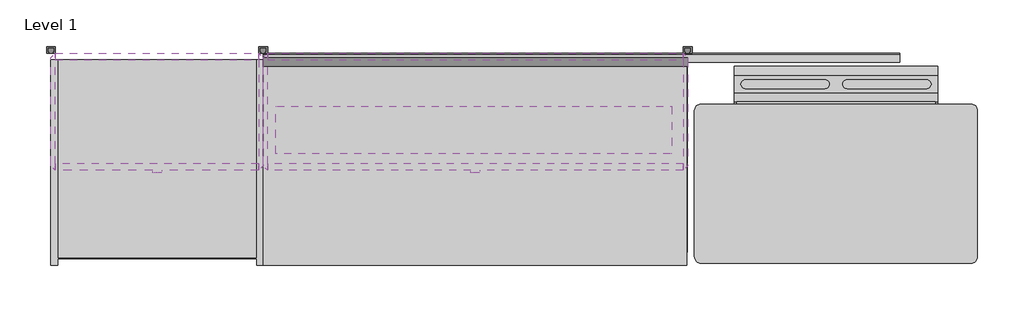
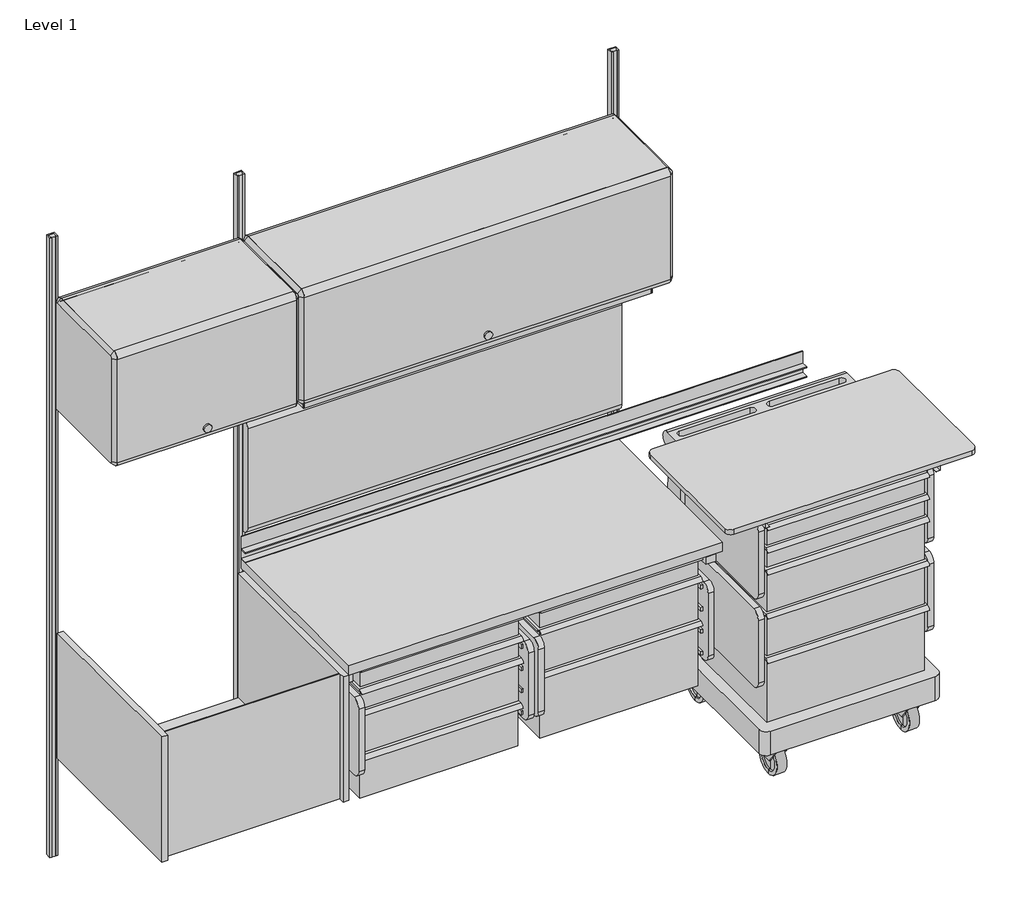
# One storey, incomplete: 30 furniture elements, 1 light fixture.
"""IFC4 building model written with IfcOpenShell, lengths in millimetres."""

from ifc_helpers import new_model, si_unit, origin, place, context, project, spatial, transform, mapped, element, save
from components import furniture_d92eedc3, furniture_cf1839e9, furniture_645566ab, furniture_ddd7d6d3, furniture_545f82d3, furniture_de886b3f, furniture_b99f520c, furniture_2c2a0f93, furniture_fc90cfd9, furniture_e09989cd, furniture_82778d6f, furniture_ebb16344, furniture_fa600c10, furniture_8d228605, furniture_ea425779, a_3_f482e030, a_3_189406c7, a_3_20021f84, a_3_c1a7feba, b_6_92a8d064, b_6_520a1b3d, b_6_334becb9, b_6_3d2ec204, b_6_ad6fc926, c_9_607037d1, c_9_16105775, light_fixture_48w_for_action_office_09e55f13

model = new_model("IFC4")

# Units and contexts
model_context = context("Model", 3, world=origin())
ifc_project = project(units=[si_unit("LENGTHUNIT", "METRE", prefix="MILLI")], contexts=[model_context])

# Site, building, storey
site = spatial("IfcSite", under=ifc_project)
building = spatial("IfcBuilding", under=site)
storey = spatial("IfcBuildingStorey", under=building, Name="Level 1", Elevation=0.0)

# Furniture
placement = place(None, origin())
furniture_shape = furniture_d92eedc3(model_context)
element("IfcFurniture", 1, ObjectType="HermanMiller_CoStruc_C2910_WorkSurfaceBacksplash : 3\"H x 72\"W", at=placement, inside=storey, context=model_context, shape_type="MappedRepresentation", body=[
    mapped(furniture_shape, transform((1524.0, -19.05, 31.75), x_axis=(1.0, 0.0, 0.0), y_axis=(0.0, 1.0, 0.0), z_axis=(0.0, 0.0, 1.0))),
])
furniture_2_shape = furniture_cf1839e9(model_context)
element("IfcFurniture", 2, ObjectType="HermanMiller_CoStruc_CO205_CFrame : 10\"H x 17\"D x 22\"W", at=placement, inside=storey, context=model_context, shape_type="MappedRepresentation", body=[
    mapped(furniture_2_shape, transform((2160.0311151, -227.1463997, 0.0), x_axis=(1.0, 0.0, 0.0), y_axis=(0.0, 1.0, 0.0), z_axis=(0.0, 0.0, 1.0))),
])
furniture_3_shape = furniture_645566ab(model_context)
element("IfcFurniture", 3, ObjectType="HermanMiller_CoStruc_CO555_CounterTop : 18\"D x 32\"W", at=placement, inside=storey, context=model_context, shape_type="MappedRepresentation", body=[
    mapped(furniture_3_shape, transform((2254.96882, -393.65428, 0.0), x_axis=(1.0, 0.0, 0.0), y_axis=(0.0, 1.0, 0.0), z_axis=(0.0, 0.0, 1.0))),
])
furniture_4_shape = furniture_ddd7d6d3(model_context)
element("IfcFurniture", 4, ObjectType="HermanMiller_CoStruc_CO205_CFrame : 10\"H x 17\"D x 22\"W", at=placement, inside=storey, context=model_context, shape_type="MappedRepresentation", body=[
    mapped(furniture_4_shape, transform((2160.0311151, -227.1463997, 0.0), x_axis=(1.0, 0.0, 0.0), y_axis=(0.0, 1.0, 0.0), z_axis=(0.0, 0.0, 1.0))),
])
furniture_5_shape = furniture_545f82d3(model_context)
element("IfcFurniture", 5, ObjectType="HermanMiller_CoStruc_CO212_LCart : 36\"H x 23\"W Std", at=placement, inside=storey, context=model_context, shape_type="MappedRepresentation", body=[
    mapped(furniture_5_shape, transform((2254.96882, -339.67928, 0.0), x_axis=(1.0, 0.0, 0.0), y_axis=(0.0, 1.0, 0.0), z_axis=(0.0, 0.0, 1.0))),
])
furniture_6_shape = furniture_de886b3f(model_context)
element("IfcFurniture", 6, ObjectType="HermanMiller_CoStruc_C2141_Heavy-DutyWorkSurface : 24\"D x 48\"W Lam", at=placement, inside=storey, context=model_context, shape_type="MappedRepresentation", body=[
    mapped(furniture_6_shape, transform((912.83536, -196.85, 0.0), x_axis=(1.0, 0.0, 0.0), y_axis=(0.0, 1.0, 0.0), z_axis=(0.0, 0.0, 1.0))),
])
furniture_7_shape = furniture_b99f520c(model_context)
element("IfcFurniture", 7, ObjectType="HermanMiller_CoStruc_C2140W_WorkSurfaceSupport_ComponentAdaptor : 14\"H x 24\"D x 48\"W", at=placement, inside=storey, context=model_context, shape_type="MappedRepresentation", body=[
    mapped(furniture_7_shape, transform((1219.2, -196.85, 0.0), x_axis=(1.0, 0.0, 0.0), y_axis=(0.0, 1.0, 0.0), z_axis=(0.0, 0.0, 1.0))),
])
furniture_8_shape = furniture_2c2a0f93(model_context)
element("IfcFurniture", 8, ObjectType="HermanMiller_CoStruc_CO205_CFrame : 10\"H x 17\"D x 22\"W", at=placement, inside=storey, context=model_context, shape_type="MappedRepresentation", body=[
    mapped(furniture_8_shape, transform((832.1622951, -271.6421197, 0.0), x_axis=(1.0, 0.0, 0.0), y_axis=(0.0, 1.0, 0.0), z_axis=(0.0, 0.0, 1.0))),
])
element("IfcFurniture", 9, ObjectType="HermanMiller_CoStruc_CO205_CFrame : 10\"H x 17\"D x 22\"W", at=placement, inside=storey, context=model_context, shape_type="MappedRepresentation", body=[
    mapped(furniture_8_shape, transform((1418.0437751, -271.6421197, 0.0), x_axis=(1.0, 0.0, 0.0), y_axis=(0.0, 1.0, 0.0), z_axis=(0.0, 0.0, 1.0))),
])
furniture_9_shape = furniture_fc90cfd9(model_context)
element("IfcFurniture", 10, ObjectType="HermanMiller_CoStruc_C2512_SinkModule : 18\"H x 24\"D x 24\"W", at=placement, inside=storey, context=model_context, shape_type="MappedRepresentation", body=[
    mapped(furniture_9_shape, transform((304.8, -206.375, 0.0), x_axis=(1.0, 0.0, 0.0), y_axis=(0.0, 1.0, 0.0), z_axis=(0.0, 0.0, 1.0))),
])
furniture_10_shape = furniture_e09989cd(model_context)
element("IfcFurniture", 11, ObjectType="HermanMiller_ActionOffice_A3410_B-StyleTackboard : 16\"H x 48\"W", at=placement, inside=storey, context=model_context, shape_type="MappedRepresentation", body=[
    mapped(furniture_10_shape, transform((1219.2, -44.45, 25.4), x_axis=(1.0, 0.0, 0.0), y_axis=(0.0, 1.0, 0.0), z_axis=(0.0, 0.0, 1.0))),
])
furniture_11_shape = furniture_82778d6f(model_context)
element("IfcFurniture", 12, ObjectType="HermanMiller_ActionOffice_B-StyleFlipperDoor : Paint 15-1/2H x 13D x 24W", at=placement, inside=storey, context=model_context, shape_type="MappedRepresentation", body=[
    mapped(furniture_11_shape, transform((304.8, -200.025, 457.2), x_axis=(1.0, 0.0, 0.0), y_axis=(0.0, 1.0, 0.0), z_axis=(0.0, 0.0, 1.0))),
])
furniture_12_shape = furniture_ebb16344(model_context)
element("IfcFurniture", 13, ObjectType="HermanMiller_ActionOffice_B-StyleFlipperDoor : Paint 15-1/2H x 13D x 48W", at=placement, inside=storey, context=model_context, shape_type="MappedRepresentation", body=[
    mapped(furniture_12_shape, transform((1219.2, -200.025, 457.2), x_axis=(1.0, 0.0, 0.0), y_axis=(0.0, 1.0, 0.0), z_axis=(0.0, 0.0, 1.0))),
])
furniture_13_shape = furniture_fa600c10(model_context)
element("IfcFurniture", 14, ObjectType="HermanMiller_CoStruc_B-StyleShelf : 15-1/2H x 13D x 24W", at=placement, inside=storey, context=model_context, shape_type="MappedRepresentation", body=[
    mapped(furniture_13_shape, transform((428.7420045, -200.025, 457.2), x_axis=(1.0, 0.0, 0.0), y_axis=(0.0, 1.0, 0.0), z_axis=(0.0, 0.0, 1.0))),
])
furniture_14_shape = furniture_8d228605(model_context)
element("IfcFurniture", 15, ObjectType="HermanMiller_CoStruc_B-StyleShelf : 15-1/2H x 13D x 48W", at=placement, inside=storey, context=model_context, shape_type="MappedRepresentation", body=[
    mapped(furniture_14_shape, transform((1343.1420045, -200.025, 457.2), x_axis=(1.0, 0.0, 0.0), y_axis=(0.0, 1.0, 0.0), z_axis=(0.0, 0.0, 1.0))),
])
furniture_15_shape = furniture_ea425779(model_context)
element("IfcFurniture", 16, ObjectType="HermanMiller_ActionOffice_AO213_WallStrip : 84\"H", at=placement, inside=storey, context=model_context, shape_type="MappedRepresentation", body=[
    mapped(furniture_15_shape, transform((609.6, 0.0, 0.0), x_axis=(1.0, 0.0, 0.0), y_axis=(0.0, 1.0, 0.0), z_axis=(0.0, 0.0, 1.0))),
])
element("IfcFurniture", 17, ObjectType="HermanMiller_ActionOffice_AO213_WallStrip : 84\"H", at=placement, inside=storey, context=model_context, shape_type="MappedRepresentation", body=[
    mapped(furniture_15_shape, transform((1828.8, 0.0, 0.0), x_axis=(1.0, 0.0, 0.0), y_axis=(0.0, 1.0, 0.0), z_axis=(0.0, 0.0, 1.0))),
])
element("IfcFurniture", 18, ObjectType="HermanMiller_ActionOffice_AO213_WallStrip : 84\"H", at=placement, inside=storey, context=model_context, shape_type="MappedRepresentation", body=[
    mapped(furniture_15_shape, transform((0.0, 0.0, 0.0), x_axis=(1.0, 0.0, 0.0), y_axis=(0.0, 1.0, 0.0), z_axis=(0.0, 0.0, 1.0))),
])
a_3_shape = a_3_f482e030(model_context)
element("IfcFurniture", 19, ObjectType="HermanMiller_CoStruc_CO207_Drawer : A - 3", at=placement, inside=storey, context=model_context, shape_type="MappedRepresentation", body=[
    mapped(a_3_shape, transform((2254.9014717, -404.8379, 0.0), x_axis=(1.0, 0.0, 0.0), y_axis=(0.0, 1.0, 0.0), z_axis=(0.0, 0.0, 1.0))),
])
a_3_2_shape = a_3_189406c7(model_context)
element("IfcFurniture", 20, ObjectType="HermanMiller_CoStruc_CO207_Drawer : A - 3", at=placement, inside=storey, context=model_context, shape_type="MappedRepresentation", body=[
    mapped(a_3_2_shape, transform((2254.9014717, -404.8379, 0.0), x_axis=(1.0, 0.0, 0.0), y_axis=(0.0, 1.0, 0.0), z_axis=(0.0, 0.0, 1.0))),
])
a_3_3_shape = a_3_20021f84(model_context)
element("IfcFurniture", 21, ObjectType="HermanMiller_CoStruc_CO207_Drawer : A - 3", at=placement, inside=storey, context=model_context, shape_type="MappedRepresentation", body=[
    mapped(a_3_3_shape, transform((923.4893517, -419.20922, 0.0), x_axis=(1.0, 0.0, 0.0), y_axis=(0.0, 1.0, 0.0), z_axis=(0.0, 0.0, 1.0))),
])
a_3_4_shape = a_3_c1a7feba(model_context)
element("IfcFurniture", 22, ObjectType="HermanMiller_CoStruc_CO207_Drawer : A - 3", at=placement, inside=storey, context=model_context, shape_type="MappedRepresentation", body=[
    mapped(a_3_4_shape, transform((1507.7833317, -419.20922, 0.0), x_axis=(1.0, 0.0, 0.0), y_axis=(0.0, 1.0, 0.0), z_axis=(0.0, 0.0, 1.0))),
])
element("IfcFurniture", 23, ObjectType="HermanMiller_CoStruc_CO207_Drawer : A - 3", at=placement, inside=storey, context=model_context, shape_type="MappedRepresentation", body=[
    mapped(a_3_4_shape, transform((923.4893517, -419.20922, 0.0), x_axis=(1.0, 0.0, 0.0), y_axis=(0.0, 1.0, 0.0), z_axis=(0.0, 0.0, 1.0))),
])
b_6_shape = b_6_92a8d064(model_context)
element("IfcFurniture", 24, ObjectType="HermanMiller_CoStruc_CO207_Drawer : B - 6", at=placement, inside=storey, context=model_context, shape_type="MappedRepresentation", body=[
    mapped(b_6_shape, transform((2254.9014717, -404.8379, 0.0), x_axis=(1.0, 0.0, 0.0), y_axis=(0.0, 1.0, 0.0), z_axis=(0.0, 0.0, 1.0))),
])
b_6_2_shape = b_6_520a1b3d(model_context)
element("IfcFurniture", 25, ObjectType="HermanMiller_CoStruc_CO207_Drawer : B - 6", at=placement, inside=storey, context=model_context, shape_type="MappedRepresentation", body=[
    mapped(b_6_2_shape, transform((2254.9014717, -404.8379, 0.0), x_axis=(1.0, 0.0, 0.0), y_axis=(0.0, 1.0, 0.0), z_axis=(0.0, 0.0, 1.0))),
])
b_6_3_shape = b_6_334becb9(model_context)
element("IfcFurniture", 26, ObjectType="HermanMiller_CoStruc_CO207_Drawer : B - 6", at=placement, inside=storey, context=model_context, shape_type="MappedRepresentation", body=[
    mapped(b_6_3_shape, transform((1507.7833317, -419.20922, 0.0), x_axis=(1.0, 0.0, 0.0), y_axis=(0.0, 1.0, 0.0), z_axis=(0.0, 0.0, 1.0))),
])
b_6_4_shape = b_6_3d2ec204(model_context)
element("IfcFurniture", 27, ObjectType="HermanMiller_CoStruc_CO207_Drawer : B - 6", at=placement, inside=storey, context=model_context, shape_type="MappedRepresentation", body=[
    mapped(b_6_4_shape, transform((923.4893517, -419.20922, 0.0), x_axis=(1.0, 0.0, 0.0), y_axis=(0.0, 1.0, 0.0), z_axis=(0.0, 0.0, 1.0))),
])
b_6_5_shape = b_6_ad6fc926(model_context)
element("IfcFurniture", 28, ObjectType="HermanMiller_CoStruc_CO207_Drawer : B - 6", at=placement, inside=storey, context=model_context, shape_type="MappedRepresentation", body=[
    mapped(b_6_5_shape, transform((921.9018517, -419.20922, 0.0), x_axis=(1.0, 0.0, 0.0), y_axis=(0.0, 1.0, 0.0), z_axis=(0.0, 0.0, 1.0))),
])
c_9_shape = c_9_607037d1(model_context)
element("IfcFurniture", 29, ObjectType="HermanMiller_CoStruc_CO207_Drawer : C - 9", at=placement, inside=storey, context=model_context, shape_type="MappedRepresentation", body=[
    mapped(c_9_shape, transform((2254.9014717, -404.8379, 0.0), x_axis=(1.0, 0.0, 0.0), y_axis=(0.0, 1.0, 0.0), z_axis=(0.0, 0.0, 1.0))),
])
c_9_2_shape = c_9_16105775(model_context)
element("IfcFurniture", 30, ObjectType="HermanMiller_CoStruc_CO207_Drawer : C - 9", at=placement, inside=storey, context=model_context, shape_type="MappedRepresentation", body=[
    mapped(c_9_2_shape, transform((1507.7833317, -419.20922, 0.0), x_axis=(1.0, 0.0, 0.0), y_axis=(0.0, 1.0, 0.0), z_axis=(0.0, 0.0, 1.0))),
])

# Light fixture
light_fixture_48w_for_action_office_shape = light_fixture_48w_for_action_office_09e55f13(model_context)
element("IfcLightFixture", 31, ObjectType="HermanMiller_SupplementalProducts_G6170_EUnderShelfLEDTaskLight : 48W for Action Office", at=placement, inside=storey, context=model_context, shape_type="MappedRepresentation", body=[
    mapped(light_fixture_48w_for_action_office_shape, transform((1214.4502, -239.776, 412.75), x_axis=(1.0, 0.0, 0.0), y_axis=(0.0, 1.0, 0.0), z_axis=(0.0, 0.0, 1.0))),
])

save(model, "model.ifc")
